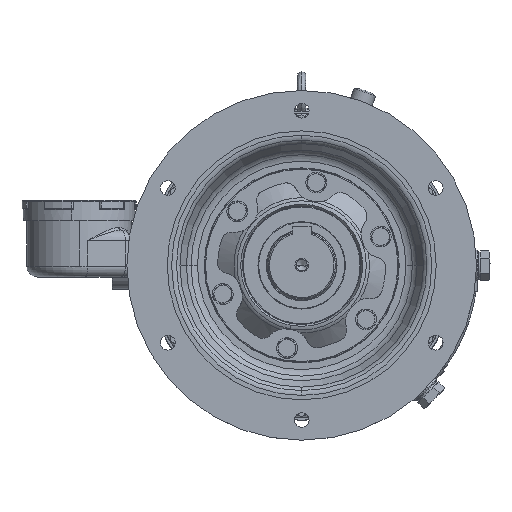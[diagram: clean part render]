
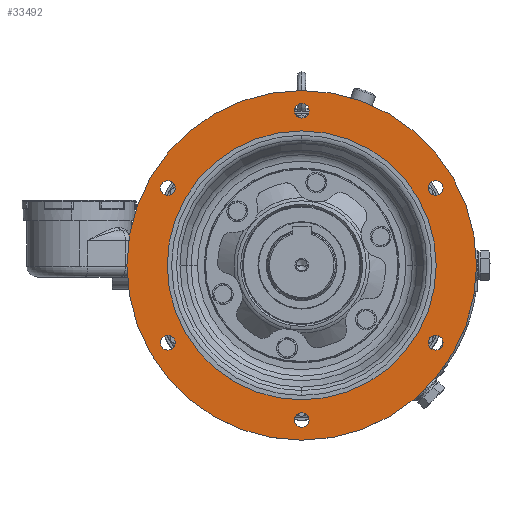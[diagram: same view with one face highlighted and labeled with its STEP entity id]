
A CAD part, top view. The second image highlights one B-rep face of the part: STEP entity #33492.
In plain terms, the highlighted planar face has unit normal (0, 0, 1).
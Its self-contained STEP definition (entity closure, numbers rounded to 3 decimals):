
#9073=CARTESIAN_POINT('',(0.,0.,0.));
#9074=DIRECTION('',(0.,0.,-1.));
#9075=DIRECTION('',(1.,0.,0.));
#9076=AXIS2_PLACEMENT_3D('',#9073,#9074,#9075);
#9078=CARTESIAN_POINT('',(0.,0.,0.));
#9079=DIRECTION('',(0.,0.,-1.));
#9080=DIRECTION('',(-1.,0.,0.));
#9081=AXIS2_PLACEMENT_3D('',#9078,#9079,#9080);
#9083=CARTESIAN_POINT('',(99.593,57.5,0.));
#9084=DIRECTION('',(0.,0.,1.));
#9085=DIRECTION('',(-1.,0.,0.));
#9086=AXIS2_PLACEMENT_3D('',#9083,#9084,#9085);
#9088=CARTESIAN_POINT('',(99.593,57.5,0.));
#9089=DIRECTION('',(0.,0.,1.));
#9090=DIRECTION('',(1.,0.,0.));
#9091=AXIS2_PLACEMENT_3D('',#9088,#9089,#9090);
#9093=CARTESIAN_POINT('',(99.593,-57.5,0.));
#9094=DIRECTION('',(0.,0.,1.));
#9095=DIRECTION('',(-0.5,0.866,0.));
#9096=AXIS2_PLACEMENT_3D('',#9093,#9094,#9095);
#9098=CARTESIAN_POINT('',(99.593,-57.5,0.));
#9099=DIRECTION('',(0.,0.,1.));
#9100=DIRECTION('',(0.5,-0.866,0.));
#9101=AXIS2_PLACEMENT_3D('',#9098,#9099,#9100);
#9103=CARTESIAN_POINT('',(0.,-115.,0.));
#9104=DIRECTION('',(0.,0.,1.));
#9105=DIRECTION('',(0.5,0.866,0.));
#9106=AXIS2_PLACEMENT_3D('',#9103,#9104,#9105);
#9108=CARTESIAN_POINT('',(0.,-115.,0.));
#9109=DIRECTION('',(0.,0.,1.));
#9110=DIRECTION('',(-0.5,-0.866,0.));
#9111=AXIS2_PLACEMENT_3D('',#9108,#9109,#9110);
#9113=CARTESIAN_POINT('',(-99.593,-57.5,0.));
#9114=DIRECTION('',(0.,0.,1.));
#9115=DIRECTION('',(1.,0.,0.));
#9116=AXIS2_PLACEMENT_3D('',#9113,#9114,#9115);
#9118=CARTESIAN_POINT('',(-99.593,-57.5,0.));
#9119=DIRECTION('',(0.,0.,1.));
#9120=DIRECTION('',(-1.,0.,0.));
#9121=AXIS2_PLACEMENT_3D('',#9118,#9119,#9120);
#9123=CARTESIAN_POINT('',(-99.593,57.5,0.));
#9124=DIRECTION('',(0.,0.,1.));
#9125=DIRECTION('',(0.5,-0.866,0.));
#9126=AXIS2_PLACEMENT_3D('',#9123,#9124,#9125);
#9128=CARTESIAN_POINT('',(-99.593,57.5,0.));
#9129=DIRECTION('',(0.,0.,1.));
#9130=DIRECTION('',(-0.5,0.866,0.));
#9131=AXIS2_PLACEMENT_3D('',#9128,#9129,#9130);
#9133=CARTESIAN_POINT('',(0.,115.,0.));
#9134=DIRECTION('',(0.,0.,1.));
#9135=DIRECTION('',(-0.5,-0.866,0.));
#9136=AXIS2_PLACEMENT_3D('',#9133,#9134,#9135);
#9138=CARTESIAN_POINT('',(0.,115.,0.));
#9139=DIRECTION('',(0.,0.,1.));
#9140=DIRECTION('',(0.5,0.866,0.));
#9141=AXIS2_PLACEMENT_3D('',#9138,#9139,#9140);
#9143=CARTESIAN_POINT('',(0.,0.,0.));
#9144=DIRECTION('',(0.,0.,1.));
#9145=DIRECTION('',(-1.,0.,0.));
#9146=AXIS2_PLACEMENT_3D('',#9143,#9144,#9145);
#9148=CARTESIAN_POINT('',(0.,0.,0.));
#9149=DIRECTION('',(0.,0.,1.));
#9150=DIRECTION('',(1.,0.,0.));
#9151=AXIS2_PLACEMENT_3D('',#9148,#9149,#9150);
#22517=CARTESIAN_POINT('',(130.,0.,0.));
#22518=VERTEX_POINT('',#22517);
#22519=CARTESIAN_POINT('',(-130.,0.,0.));
#22520=VERTEX_POINT('',#22519);
#22521=CARTESIAN_POINT('',(94.093,57.5,0.));
#22522=CARTESIAN_POINT('',(105.093,57.5,0.));
#22523=VERTEX_POINT('',#22521);
#22524=VERTEX_POINT('',#22522);
#22525=CARTESIAN_POINT('',(96.843,-52.737,
0.));
#22526=CARTESIAN_POINT('',(102.343,-62.263,
0.));
#22527=VERTEX_POINT('',#22525);
#22528=VERTEX_POINT('',#22526);
#22529=CARTESIAN_POINT('',(2.75,-110.237,
0.));
#22530=CARTESIAN_POINT('',(-2.75,-119.763,
0.));
#22531=VERTEX_POINT('',#22529);
#22532=VERTEX_POINT('',#22530);
#22533=CARTESIAN_POINT('',(-94.093,-57.5,0.));
#22534=CARTESIAN_POINT('',(-105.093,-57.5,0.));
#22535=VERTEX_POINT('',#22533);
#22536=VERTEX_POINT('',#22534);
#22537=CARTESIAN_POINT('',(-96.843,52.737,
0.));
#22538=CARTESIAN_POINT('',(-102.343,62.263,
0.));
#22539=VERTEX_POINT('',#22537);
#22540=VERTEX_POINT('',#22538);
#22541=CARTESIAN_POINT('',(-2.75,110.237,
0.));
#22542=CARTESIAN_POINT('',(2.75,119.763,
0.));
#22543=VERTEX_POINT('',#22541);
#22544=VERTEX_POINT('',#22542);
#22545=CARTESIAN_POINT('',(-100.,0.,0.));
#22546=CARTESIAN_POINT('',(100.,0.,0.));
#22547=VERTEX_POINT('',#22545);
#22548=VERTEX_POINT('',#22546);
#33441=CARTESIAN_POINT('',(0.,0.,0.));
#33442=DIRECTION('',(0.,0.,1.));
#33443=DIRECTION('',(0.,-1.,0.));
#33444=AXIS2_PLACEMENT_3D('',#33441,#33442,#33443);
#33445=PLANE('',#33444);
#33446=ORIENTED_EDGE('',*,*,#33432,.T.);
#33447=ORIENTED_EDGE('',*,*,#33406,.T.);
#33448=EDGE_LOOP('',(#33446,#33447));
#33449=FACE_OUTER_BOUND('',#33448,.F.);
#33451=ORIENTED_EDGE('',*,*,#33450,.T.);
#33453=ORIENTED_EDGE('',*,*,#33452,.T.);
#33454=EDGE_LOOP('',(#33451,#33453));
#33455=FACE_BOUND('',#33454,.F.);
#33457=ORIENTED_EDGE('',*,*,#33456,.T.);
#33459=ORIENTED_EDGE('',*,*,#33458,.T.);
#33460=EDGE_LOOP('',(#33457,#33459));
#33461=FACE_BOUND('',#33460,.F.);
#33463=ORIENTED_EDGE('',*,*,#33462,.T.);
#33465=ORIENTED_EDGE('',*,*,#33464,.T.);
#33466=EDGE_LOOP('',(#33463,#33465));
#33467=FACE_BOUND('',#33466,.F.);
#33469=ORIENTED_EDGE('',*,*,#33468,.T.);
#33471=ORIENTED_EDGE('',*,*,#33470,.T.);
#33472=EDGE_LOOP('',(#33469,#33471));
#33473=FACE_BOUND('',#33472,.F.);
#33475=ORIENTED_EDGE('',*,*,#33474,.T.);
#33477=ORIENTED_EDGE('',*,*,#33476,.T.);
#33478=EDGE_LOOP('',(#33475,#33477));
#33479=FACE_BOUND('',#33478,.F.);
#33481=ORIENTED_EDGE('',*,*,#33480,.T.);
#33483=ORIENTED_EDGE('',*,*,#33482,.T.);
#33484=EDGE_LOOP('',(#33481,#33483));
#33485=FACE_BOUND('',#33484,.F.);
#33487=ORIENTED_EDGE('',*,*,#33486,.T.);
#33489=ORIENTED_EDGE('',*,*,#33488,.T.);
#33490=EDGE_LOOP('',(#33487,#33489));
#33491=FACE_BOUND('',#33490,.F.);
#33492=ADVANCED_FACE('',(#33449,#33455,#33461,#33467,#33473,#33479,#33485,
#33491),#33445,.T.);
#9077=CIRCLE('',#9076,130.);
#9082=CIRCLE('',#9081,130.);
#9087=CIRCLE('',#9086,5.5);
#9092=CIRCLE('',#9091,5.5);
#9097=CIRCLE('',#9096,5.5);
#9102=CIRCLE('',#9101,5.5);
#9107=CIRCLE('',#9106,5.5);
#9112=CIRCLE('',#9111,5.5);
#9117=CIRCLE('',#9116,5.5);
#9122=CIRCLE('',#9121,5.5);
#9127=CIRCLE('',#9126,5.5);
#9132=CIRCLE('',#9131,5.5);
#9137=CIRCLE('',#9136,5.5);
#9142=CIRCLE('',#9141,5.5);
#9147=CIRCLE('',#9146,100.);
#9152=CIRCLE('',#9151,100.);
#33406=EDGE_CURVE('',#22520,#22518,#9082,.T.);
#33432=EDGE_CURVE('',#22518,#22520,#9077,.T.);
#33450=EDGE_CURVE('',#22523,#22524,#9087,.T.);
#33452=EDGE_CURVE('',#22524,#22523,#9092,.T.);
#33456=EDGE_CURVE('',#22527,#22528,#9097,.T.);
#33458=EDGE_CURVE('',#22528,#22527,#9102,.T.);
#33462=EDGE_CURVE('',#22531,#22532,#9107,.T.);
#33464=EDGE_CURVE('',#22532,#22531,#9112,.T.);
#33468=EDGE_CURVE('',#22535,#22536,#9117,.T.);
#33470=EDGE_CURVE('',#22536,#22535,#9122,.T.);
#33474=EDGE_CURVE('',#22539,#22540,#9127,.T.);
#33476=EDGE_CURVE('',#22540,#22539,#9132,.T.);
#33480=EDGE_CURVE('',#22543,#22544,#9137,.T.);
#33482=EDGE_CURVE('',#22544,#22543,#9142,.T.);
#33486=EDGE_CURVE('',#22547,#22548,#9147,.T.);
#33488=EDGE_CURVE('',#22548,#22547,#9152,.T.);
